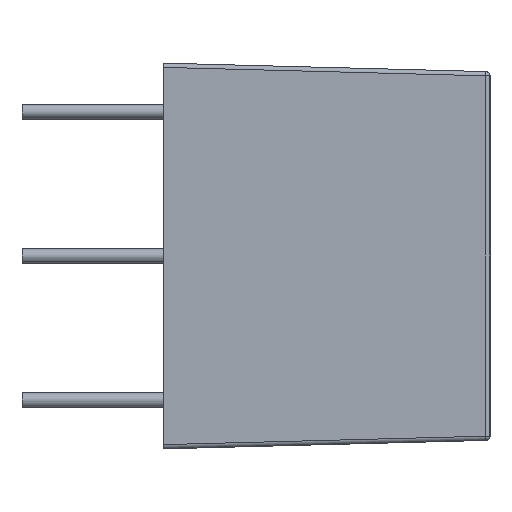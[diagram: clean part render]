
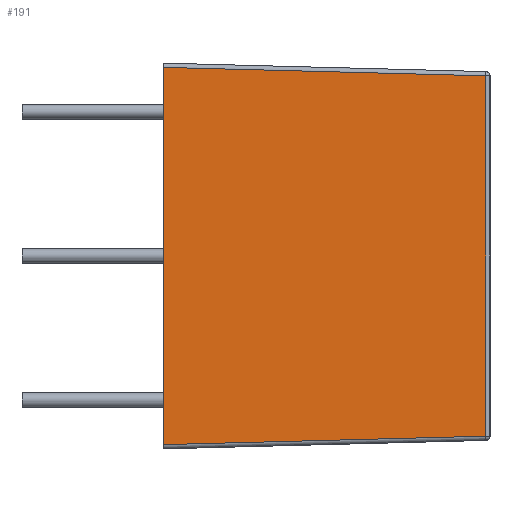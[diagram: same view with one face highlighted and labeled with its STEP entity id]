
A CAD part, left-side view. The second image highlights one B-rep face of the part: STEP entity #191.
In plain terms, the highlighted planar face has unit normal (-1, -0.026, 0).
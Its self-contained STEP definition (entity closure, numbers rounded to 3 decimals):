
#173 = ORIENTED_EDGE ( 'NONE', *, *, #175, .F. ) ;
#174 = VERTEX_POINT ( 'NONE', #1273 ) ;
#175 = EDGE_CURVE ( 'NONE', #174, #184, #1272, .T. ) ;
#177 = ORIENTED_EDGE ( 'NONE', *, *, #181, .T. ) ;
#181 = EDGE_CURVE ( 'NONE', #174, #189, #1260, .T. ) ;
#184 = VERTEX_POINT ( 'NONE', #1300 ) ;
#185 = VERTEX_POINT ( 'NONE', #1299 ) ;
#186 = ORIENTED_EDGE ( 'NONE', *, *, #187, .T. ) ;
#187 = EDGE_CURVE ( 'NONE', #185, #184, #1298, .T. ) ;
#188 = EDGE_CURVE ( 'NONE', #189, #185, #1294, .T. ) ;
#189 = VERTEX_POINT ( 'NONE', #1290 ) ;
#190 = ORIENTED_EDGE ( 'NONE', *, *, #188, .T. ) ;
#191 = ADVANCED_FACE ( 'NONE', ( #1289 ), #1288, .T. ) ;
#193 = EDGE_LOOP ( 'NONE', ( #190, #186, #173, #177 ) ) ;
#1257 = DIRECTION ( 'NONE',  ( 0.026, -0.999, 0.026 ) ) ;
#1258 = VECTOR ( 'NONE', #1257, 1000. ) ;
#1259 = CARTESIAN_POINT ( 'NONE',  ( -26.2, 0.008, -13.3 ) ) ;
#1260 = LINE ( 'NONE', #1259, #1258 ) ;
#1269 = DIRECTION ( 'NONE',  ( 0., 0., 1. ) ) ;
#1270 = VECTOR ( 'NONE', #1269, 1000. ) ;
#1271 = CARTESIAN_POINT ( 'NONE',  ( -26.2, 0., -13.6 ) ) ;
#1272 = LINE ( 'NONE', #1271, #1270 ) ;
#1273 = CARTESIAN_POINT ( 'NONE',  ( -26.2, 0., -13.3 ) ) ;
#1284 = DIRECTION ( 'NONE',  ( 0.026, -1., 0. ) ) ;
#1285 = DIRECTION ( 'NONE',  ( -1., -0.026, 0. ) ) ;
#1286 = CARTESIAN_POINT ( 'NONE',  ( -26.2, 0., -13.6 ) ) ;
#1287 = AXIS2_PLACEMENT_3D ( 'NONE', #1286, #1285, #1284 ) ;
#1288 = PLANE ( 'NONE',  #1287 ) ;
#1289 = FACE_OUTER_BOUND ( 'NONE', #193, .T. ) ;
#1290 = CARTESIAN_POINT ( 'NONE',  ( -25.605, -22.708, -12.705 ) ) ;
#1291 = DIRECTION ( 'NONE',  ( 0., 0., 1. ) ) ;
#1292 = VECTOR ( 'NONE', #1291, 1000. ) ;
#1293 = CARTESIAN_POINT ( 'NONE',  ( -25.605, -22.708, 12.998 ) ) ;
#1294 = LINE ( 'NONE', #1293, #1292 ) ;
#1295 = DIRECTION ( 'NONE',  ( -0.026, 0.999, 0.026 ) ) ;
#1296 = VECTOR ( 'NONE', #1295, 1000. ) ;
#1297 = CARTESIAN_POINT ( 'NONE',  ( -26.182, -0.703, 13.282 ) ) ;
#1298 = LINE ( 'NONE', #1297, #1296 ) ;
#1299 = CARTESIAN_POINT ( 'NONE',  ( -25.605, -22.708, 12.705 ) ) ;
#1300 = CARTESIAN_POINT ( 'NONE',  ( -26.2, 0., 13.3 ) ) ;
